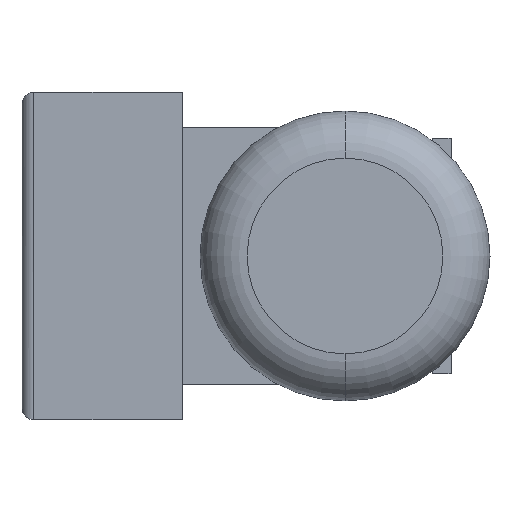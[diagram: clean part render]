
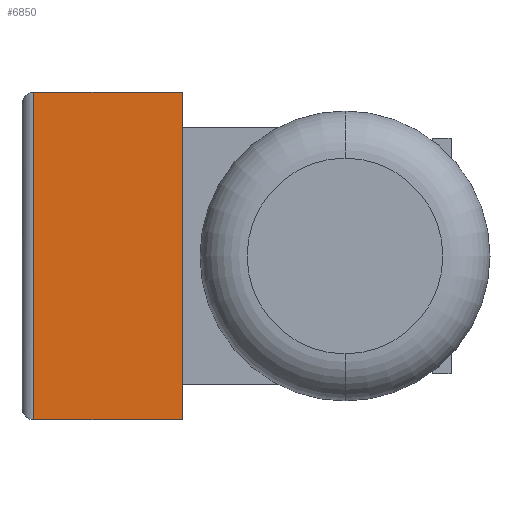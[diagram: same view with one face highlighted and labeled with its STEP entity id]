
A CAD part, left-side view. The second image highlights one B-rep face of the part: STEP entity #6850.
In plain terms, the highlighted planar face has unit normal (-1, 0, 0).
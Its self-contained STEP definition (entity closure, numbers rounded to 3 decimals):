
#4260=CARTESIAN_POINT('',(-82.217,131.742,
-69.5));
#4270=VERTEX_POINT('',#4260);
#4300=CARTESIAN_POINT('',(-82.217,131.742,
64.049));
#4310=DIRECTION('',(0.,0.,-1.));
#4320=VECTOR('',#4310,1.);
#4330=LINE('',#4300,#4320);
#4340=CARTESIAN_POINT('',(-82.217,131.742,
69.5));
#4350=VERTEX_POINT('',#4340);
#4360=EDGE_CURVE('',#4350,#4270,#4330,.T.);
#4800=CARTESIAN_POINT('',(-82.217,194.742,
69.5));
#4810=VERTEX_POINT('',#4800);
#6200=CARTESIAN_POINT('',(-82.217,194.742,
-69.5));
#6210=VERTEX_POINT('',#6200);
#6450=CARTESIAN_POINT('',(-82.217,184.742,
-69.5));
#6460=DIRECTION('',(0.,-1.,0.));
#6470=VECTOR('',#6460,1.);
#6480=LINE('',#6450,#6470);
#6490=EDGE_CURVE('',#6210,#4270,#6480,.T.);
#6640=CARTESIAN_POINT('',(-82.217,-96.869,
64.049));
#6650=DIRECTION('',(1.,0.,0.));
#6660=DIRECTION('',(0.,0.,-1.));
#6670=AXIS2_PLACEMENT_3D('',#6640,#6650,#6660);
#6680=PLANE('',#6670);
#6690=CARTESIAN_POINT('',(-82.217,184.742,
69.5));
#6700=DIRECTION('',(0.,-1.,0.));
#6710=VECTOR('',#6700,1.);
#6720=LINE('',#6690,#6710);
#6730=EDGE_CURVE('',#4810,#4350,#6720,.T.);
#6740=ORIENTED_EDGE('',*,*,#6730,.F.);
#6750=ORIENTED_EDGE('',*,*,#4360,.F.);
#6760=ORIENTED_EDGE('',*,*,#6490,.T.);
#6770=CARTESIAN_POINT('',(-82.217,194.742,
64.049));
#6780=DIRECTION('',(0.,0.,-1.));
#6790=VECTOR('',#6780,1.);
#6800=LINE('',#6770,#6790);
#6810=EDGE_CURVE('',#4810,#6210,#6800,.T.);
#6820=ORIENTED_EDGE('',*,*,#6810,.T.);
#6830=EDGE_LOOP('',(#6820,#6760,#6750,#6740));
#6840=FACE_OUTER_BOUND('',#6830,.T.);
#6850=ADVANCED_FACE('',(#6840),#6680,.F.);
